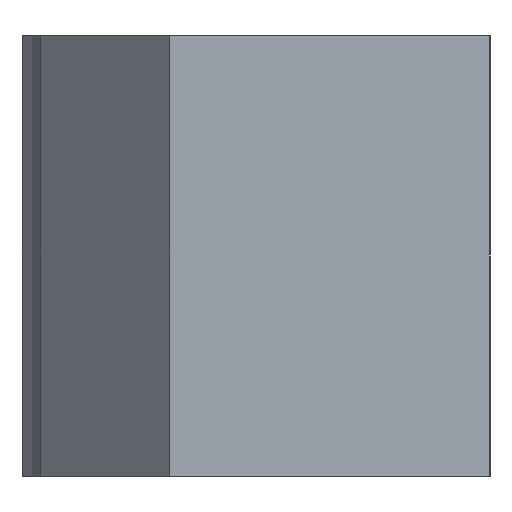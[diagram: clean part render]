
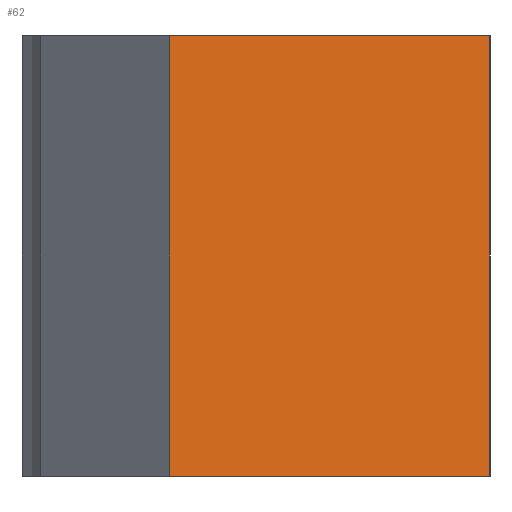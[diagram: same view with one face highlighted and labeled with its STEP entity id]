
A CAD part, left-side view. The second image highlights one B-rep face of the part: STEP entity #62.
In plain terms, the highlighted planar face has unit normal (-0.707, -0.707, 0).
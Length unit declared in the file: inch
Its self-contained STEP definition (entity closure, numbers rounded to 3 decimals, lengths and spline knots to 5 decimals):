
#51 = ORIENTED_EDGE ( 'NONE', *, *, #352, .F. ) ;
#62 = ADVANCED_FACE ( 'NONE', ( #533 ), #213, .T. ) ;
#68 = VECTOR ( 'NONE', #678, 39.37008 ) ;
#86 = ORIENTED_EDGE ( 'NONE', *, *, #322, .T. ) ;
#99 = CARTESIAN_POINT ( 'NONE',  ( -1.92587, 0., -1. ) ) ;
#102 = VERTEX_POINT ( 'NONE', #378 ) ;
#153 = CARTESIAN_POINT ( 'NONE',  ( -2.65253, 0.72666, -1. ) ) ;
#157 = CARTESIAN_POINT ( 'NONE',  ( -2.65253, 0.72666, -1. ) ) ;
#170 = DIRECTION ( 'NONE',  ( -0.707, -0.707, 0. ) ) ;
#177 = CARTESIAN_POINT ( 'NONE',  ( -1.92587, 0., 0. ) ) ;
#213 = PLANE ( 'NONE',  #593 ) ;
#253 = LINE ( 'NONE', #99, #346 ) ;
#257 = ORIENTED_EDGE ( 'NONE', *, *, #291, .F. ) ;
#275 = DIRECTION ( 'NONE',  ( 0.707, -0.707, 0. ) ) ;
#291 = EDGE_CURVE ( 'NONE', #462, #559, #435, .T. ) ;
#311 = VERTEX_POINT ( 'NONE', #153 ) ;
#322 = EDGE_CURVE ( 'NONE', #102, #559, #518, .T. ) ;
#346 = VECTOR ( 'NONE', #512, 39.37008 ) ;
#350 = EDGE_LOOP ( 'NONE', ( #257, #51, #554, #86 ) ) ;
#352 = EDGE_CURVE ( 'NONE', #311, #462, #470, .T. ) ;
#378 = CARTESIAN_POINT ( 'NONE',  ( -1.92587, 0., -1. ) ) ;
#389 = VECTOR ( 'NONE', #594, 39.37008 ) ;
#407 = CARTESIAN_POINT ( 'NONE',  ( -2.65253, 0.72666, 0. ) ) ;
#421 = CARTESIAN_POINT ( 'NONE',  ( -1.92587, 0., -1. ) ) ;
#435 = LINE ( 'NONE', #177, #389 ) ;
#439 = CARTESIAN_POINT ( 'NONE',  ( -1.92587, 0., 0. ) ) ;
#462 = VERTEX_POINT ( 'NONE', #407 ) ;
#463 = EDGE_CURVE ( 'NONE', #311, #102, #253, .T. ) ;
#464 = DIRECTION ( 'NONE',  ( 0., 0., 1. ) ) ;
#470 = LINE ( 'NONE', #157, #569 ) ;
#512 = DIRECTION ( 'NONE',  ( 0.707, -0.707, 0. ) ) ;
#518 = LINE ( 'NONE', #421, #68 ) ;
#533 = FACE_OUTER_BOUND ( 'NONE', #350, .T. ) ;
#554 = ORIENTED_EDGE ( 'NONE', *, *, #463, .T. ) ;
#559 = VERTEX_POINT ( 'NONE', #439 ) ;
#569 = VECTOR ( 'NONE', #464, 39.37008 ) ;
#593 = AXIS2_PLACEMENT_3D ( 'NONE', #642, #170, #275 ) ;
#594 = DIRECTION ( 'NONE',  ( 0.707, -0.707, 0. ) ) ;
#642 = CARTESIAN_POINT ( 'NONE',  ( -1.92587, 0., -1. ) ) ;
#678 = DIRECTION ( 'NONE',  ( 0., 0., 1. ) ) ;
